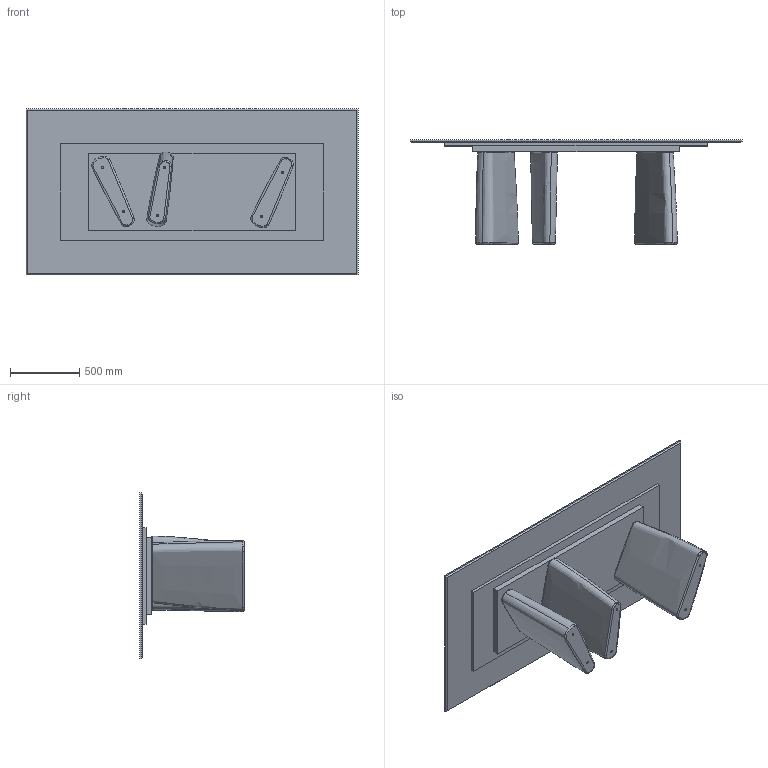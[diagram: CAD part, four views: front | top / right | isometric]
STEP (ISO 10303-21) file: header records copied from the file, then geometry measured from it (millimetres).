
FILE_DESCRIPTION (( 'STEP AP203' ), '1' );
FILE_NAME ('marmo 240x120.STEP', '2025-04-14T14:43:34', ( '' ), ( '' ), 'SwSTEP 2.0', 'SolidWorks 2022', '' );
FILE_SCHEMA (( 'CONFIG_CONTROL_DESIGN' ));
Length unit declared in the file: millimetre
Products named in the file (3): marmo 240x120; piano alleggerito_Marmo 240x120; CAMP_00200-01-Gamba in MDF_raggi
Assembly tree (4 placements, depth 2):
  marmo 240x120
    piano alleggerito_Marmo 240x120
    CAMP_00200-01-Gamba in MDF_raggi  x3
Bounding box: 2400 x 755 x 1200 mm (x, y, z)
Volume: 242911175.4 mm3; surface area: 13172496.8 mm2
Topology: 6 solids, 6 shells, 154 faces, 374 edges, 244 vertices
Faces by surface type: bspline 54, plane 40, cylinder 36, cone 24
Entity records: 6486 total; most frequent: CARTESIAN_POINT 4464, ORIENTED_EDGE 356, DIRECTION 326, EDGE_CURVE 178, AXIS2_PLACEMENT_3D 127, VERTEX_POINT 116, EDGE_LOOP 90, FACE_OUTER_BOUND 74
